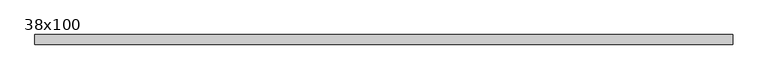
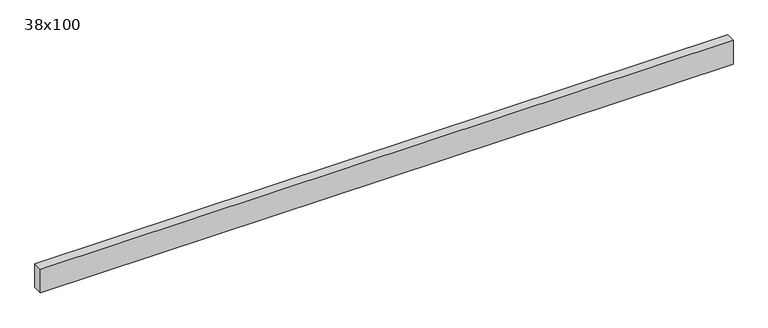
"""IFC4 building model written with IfcOpenShell, lengths in millimetres: beam geometry, Poutre - Bois de construction de dimensions courantes : 38x100."""

from ifc_helpers import new_model, si_unit, frame, origin, place, context, project, spatial, polyline, outline, extrude, source, transform, mapped, element, save


def beam_38x100_bf1b61ce(model_context):
    return source(origin(), model_context, "Body", "SweptSolid", [
        extrude(outline(polyline([(1305.5, 19.05), (1305.5, -19.05), (-1465.5, -19.05), (-1465.5, 19.05), (1305.5, 19.05)])), frame((0.0, 0.0, -50.0), z_axis=(0.0, 0.0, 1.0), x_axis=(1.0, 0.0, 0.0)), (0.0, 0.0, 1.0), 100.0),
    ])


if __name__ == "__main__":
    model = new_model("IFC4")
    model_context = context("Model", 3, world=origin())
    ifc_project = project(units=[si_unit("LENGTHUNIT", "METRE", prefix="MILLI")], contexts=[model_context])
    site = spatial("IfcSite", under=ifc_project)
    building = spatial("IfcBuilding", under=site)
    placement = place(None, origin())
    beam_38x100_shape = beam_38x100_bf1b61ce(model_context)
    element("IfcBeam", 1, ObjectType="Poutre - Bois de construction de dimensions courantes : 38x100", at=placement, inside=building, context=model_context, shape_type="MappedRepresentation", body=[
        mapped(beam_38x100_shape, transform((0.0, 0.0, 0.0), x_axis=(1.0, 0.0, 0.0), y_axis=(0.0, 1.0, 0.0), z_axis=(0.0, 0.0, 1.0))),
    ])
    save(model, "model.ifc")
